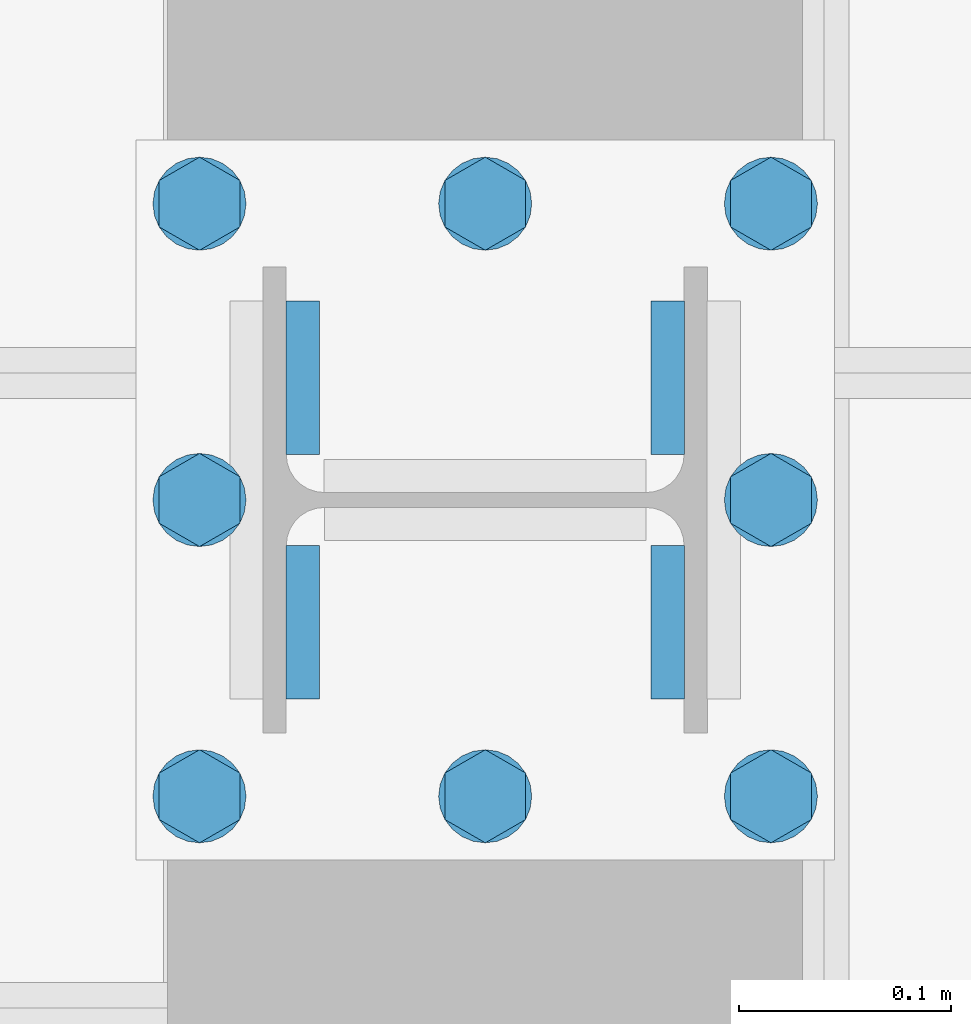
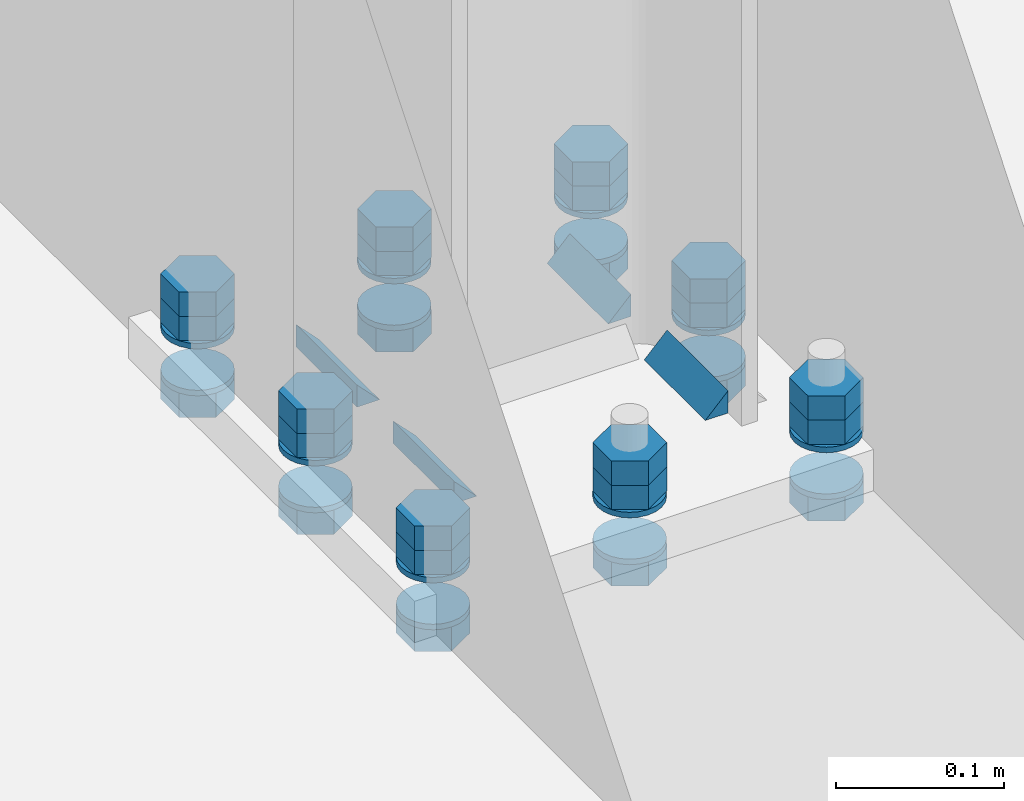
# One storey, part 18 of 29: 40 mechanical fasteners, 4 fasteners.
"""IFC4 building model written with IfcOpenShell, lengths in metres."""

from ifc_helpers import new_model, si_unit, frame, origin_with_axes, place, context, project, spatial, polyline, outline, extrude, type_object, element, save


model = new_model("IFC4")

# Units and contexts
model_context = context("Model", 3, precision=1e-05, world=origin_with_axes())
ifc_project = project(units=[si_unit("LENGTHUNIT", "METRE"), si_unit("AREAUNIT", "SQUARE_METRE"), si_unit("VOLUMEUNIT", "CUBIC_METRE"), si_unit("MASSUNIT", "GRAM", prefix="KILO"), si_unit("TIMEUNIT", "SECOND"), si_unit("PLANEANGLEUNIT", "RADIAN"), si_unit("SOLIDANGLEUNIT", "STERADIAN"), si_unit("THERMODYNAMICTEMPERATUREUNIT", "DEGREE_CELSIUS")], contexts=[model_context])

# Site, building, storey
placement_1 = place(None, origin_with_axes())
site = spatial("IfcSite", under=ifc_project, at=placement_1, Name="Italia", CompositionType="ELEMENT")
building = spatial("IfcBuilding", under=site, at=placement_1, Name="Capannone", CompositionType="ELEMENT")
storey = spatial("IfcBuildingStorey", under=building, at=placement_1, Name="Storey 0", CompositionType="ELEMENT", Elevation=0.0)

# Fasteners
fastener_type_1 = type_object("IfcFastenerType", Name="Collegamenti 0001_0101 0002_0102 0003_0103 0004_0104 0005_0105 0006_0106 0007_0107 0008_0108 0009_0109 0010_0110 0011_0111 0012_0112", PredefinedType="WELD")
placement_2 = place(placement_1, origin_with_axes())
fastener_1_placement = place(placement_2, origin_with_axes())
element("IfcFastener", 1, at=fastener_1_placement, inside=storey, type_object=fastener_type_1, Name="Collegamenti 0001_0101 0002_0102 0003_0103 0004_0104 0005_0105 0006_0106 0007_0107 0008_0108 0009_0109 0010_0110 0011_0111 0012_0112", context=model_context, shape_type="SweptSolid", body=[
    extrude(outline(polyline([(0.0, 0.0), (0.0156889, 0.0161734), (0.0156889, 0.0), (0.0, 0.0)])), frame((13.9216, 6.02145, 0.02995), z_axis=(0.0, 1.0, 0.0), x_axis=(-1.0, 0.0, 0.0)), (0.0, 0.0, 1.0), 0.0725999),
])
fastener_type_2 = type_object("IfcFastenerType", Name="Collegamenti 0001_0101 0002_0102 0003_0103 0004_0104 0005_0105 0006_0106 0007_0107 0008_0108 0009_0109 0010_0110 0011_0111 0012_0112", PredefinedType="WELD")
fastener_2_placement = place(placement_2, origin_with_axes())
element("IfcFastener", 2, at=fastener_2_placement, inside=storey, type_object=fastener_type_2, Name="Collegamenti 0001_0101 0002_0102 0003_0103 0004_0104 0005_0105 0006_0106 0007_0107 0008_0108 0009_0109 0010_0110 0011_0111 0012_0112", context=model_context, shape_type="SweptSolid", body=[
    extrude(outline(polyline([(0.0, 0.0), (0.0156889, 0.0161734), (0.0156889, 0.0), (0.0, 0.0)])), frame((14.0784, 6.09405, 0.02995), z_axis=(0.0, -1.0, 0.0), x_axis=(1.0, 0.0, 0.0)), (0.0, 0.0, 1.0), 0.0725999),
])
fastener_type_3 = type_object("IfcFastenerType", Name="Collegamenti 0001_0101 0002_0102 0003_0103 0004_0104 0005_0105 0006_0106 0007_0107 0008_0108 0009_0109 0010_0110 0011_0111 0012_0112", PredefinedType="WELD")
fastener_3_placement = place(placement_2, origin_with_axes())
element("IfcFastener", 3, at=fastener_3_placement, inside=storey, type_object=fastener_type_3, Name="Collegamenti 0001_0101 0002_0102 0003_0103 0004_0104 0005_0105 0006_0106 0007_0107 0008_0108 0009_0109 0010_0110 0011_0111 0012_0112", context=model_context, shape_type="SweptSolid", body=[
    extrude(outline(polyline([(0.0, 0.0), (0.0156889, 0.0161734), (0.0156889, 0.0), (0.0, 0.0)])), frame((14.0784, 5.97855, 0.02995), z_axis=(0.0, -1.0, 0.0), x_axis=(1.0, 0.0, 0.0)), (0.0, 0.0, 1.0), 0.0725999),
])
fastener_type_4 = type_object("IfcFastenerType", Name="Collegamenti 0001_0101 0002_0102 0003_0103 0004_0104 0005_0105 0006_0106 0007_0107 0008_0108 0009_0109 0010_0110 0011_0111 0012_0112", PredefinedType="WELD")
fastener_4_placement = place(placement_2, origin_with_axes())
element("IfcFastener", 4, at=fastener_4_placement, inside=storey, type_object=fastener_type_4, Name="Collegamenti 0001_0101 0002_0102 0003_0103 0004_0104 0005_0105 0006_0106 0007_0107 0008_0108 0009_0109 0010_0110 0011_0111 0012_0112", context=model_context, shape_type="SweptSolid", body=[
    extrude(outline(polyline([(0.0, 0.0), (0.0156889, 0.0161734), (0.0156889, 0.0), (0.0, 0.0)])), frame((13.9216, 5.90595, 0.02995), z_axis=(0.0, 1.0, 0.0), x_axis=(-1.0, 0.0, 0.0)), (0.0, 0.0, 1.0), 0.0725999),
])

# Mechanical fasteners
mechanical_fastener_type_1 = type_object("IfcMechanicalFastenerType", Name="Collegamenti 0001_0101 0002_0102 0003_0103 0004_0104 0005_0105 0006_0106 0007_0107 0008_0108 0009_0109 0010_0110 0011_0111 0012_0112", PredefinedType="BOLT")
mechanical_fastener_1_placement = place(placement_2, origin_with_axes())
element("IfcMechanicalFastener", 5, at=mechanical_fastener_1_placement, inside=storey, type_object=mechanical_fastener_type_1, Name="Collegamenti 0001_0101 0002_0102 0003_0103 0004_0104 0005_0105 0006_0106 0007_0107 0008_0108 0009_0109 0010_0110 0011_0111 0012_0112", NominalDiameter=0.0219998, context=model_context, shape_type="SweptSolid", body=[
    extrude(outline(polyline([(0.0, 0.0), (-0.0219998, 0.0), (-0.033, 0.0190525), (-0.0219998, 0.038105), (0.0, 0.038105), (0.0110002, 0.0190525), (0.0, 0.0)])), frame((14.1541, 5.871, 0.034), z_axis=(0.0, 0.0, 1.0), x_axis=(0.0, 1.0, 0.0)), (0.0, 0.0, 1.0), 0.0176),
])
mechanical_fastener_type_2 = type_object("IfcMechanicalFastenerType", Name="Collegamenti 0001_0101 0002_0102 0003_0103 0004_0104 0005_0105 0006_0106 0007_0107 0008_0108 0009_0109 0010_0110 0011_0111 0012_0112", PredefinedType="BOLT")
mechanical_fastener_2_placement = place(placement_2, origin_with_axes())
element("IfcMechanicalFastener", 6, at=mechanical_fastener_2_placement, inside=storey, type_object=mechanical_fastener_type_2, Name="Collegamenti 0001_0101 0002_0102 0003_0103 0004_0104 0005_0105 0006_0106 0007_0107 0008_0108 0009_0109 0010_0110 0011_0111 0012_0112", NominalDiameter=0.0219998, context=model_context, shape_type="SweptSolid", body=[
    extrude(outline(polyline([(0.0, 0.0), (-0.0219998, 0.0), (-0.033, 0.0190525), (-0.0219998, 0.038105), (0.0, 0.038105), (0.0110002, 0.0190525), (0.0, 0.0)])), frame((14.1541, 5.871, 0.0516), z_axis=(0.0, 0.0, 1.0), x_axis=(0.0, 1.0, 0.0)), (0.0, 0.0, 1.0), 0.0176),
])
mechanical_fastener_type_3 = type_object("IfcMechanicalFastenerType", Name="Collegamenti 0001_0101 0002_0102 0003_0103 0004_0104 0005_0105 0006_0106 0007_0107 0008_0108 0009_0109 0010_0110 0011_0111 0012_0112", PredefinedType="BOLT")
mechanical_fastener_3_placement = place(placement_2, origin_with_axes())
element("IfcMechanicalFastener", 7, at=mechanical_fastener_3_placement, inside=storey, type_object=mechanical_fastener_type_3, Name="Collegamenti 0001_0101 0002_0102 0003_0103 0004_0104 0005_0105 0006_0106 0007_0107 0008_0108 0009_0109 0010_0110 0011_0111 0012_0112", NominalDiameter=0.0219998, context=model_context, shape_type="SweptSolid", body=[
    extrude(outline(polyline([(0.0, 0.0), (-0.0219998, 0.0), (-0.033, 0.0190525), (-0.0219998, 0.038105), (0.0, 0.038105), (0.0110002, 0.0190525), (0.0, 0.0)])), frame((14.1541, 5.871, -0.0216), z_axis=(0.0, 0.0, 1.0), x_axis=(0.0, 1.0, 0.0)), (0.0, 0.0, 1.0), 0.0176),
])
mechanical_fastener_type_4 = type_object("IfcMechanicalFastenerType", Name="Collegamenti 0001_0101 0002_0102 0003_0103 0004_0104 0005_0105 0006_0106 0007_0107 0008_0108 0009_0109 0010_0110 0011_0111 0012_0112", PredefinedType="BOLT")
mechanical_fastener_4_placement = place(placement_2, origin_with_axes())
element("IfcMechanicalFastener", 8, at=mechanical_fastener_4_placement, inside=storey, type_object=mechanical_fastener_type_4, Name="Collegamenti 0001_0101 0002_0102 0003_0103 0004_0104 0005_0105 0006_0106 0007_0107 0008_0108 0009_0109 0010_0110 0011_0111 0012_0112", NominalDiameter=0.044, context=model_context, shape_type="SweptSolid", body=[
    extrude(outline(polyline([(0.0, 0.0), (-0.000749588, -0.00569439), (-0.00294733, -0.0109997), (-0.0064435, -0.0155563), (-0.0109997, -0.0190525), (-0.0163059, -0.0212507), (-0.0219998, -0.0220003), (-0.0276937, -0.0212507), (-0.033, -0.0190525), (-0.0375562, -0.0155563), (-0.0410523, -0.0109997), (-0.0432501, -0.00569439), (-0.0439997, 0.0), (-0.0432501, 0.00569439), (-0.0410523, 0.0109997), (-0.0375562, 0.0155563), (-0.033, 0.0190525), (-0.0276937, 0.0212507), (-0.0219998, 0.0220003), (-0.0163059, 0.0212507), (-0.0109997, 0.0190525), (-0.0064435, 0.0155563), (-0.00294733, 0.0109997), (-0.000749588, 0.00569439), (0.0, 0.0)])), frame((14.135, 5.882, 0.03), z_axis=(0.0, 0.0, 1.0), x_axis=(0.0, 1.0, 0.0)), (0.0, 0.0, 1.0), 0.004),
])
mechanical_fastener_type_5 = type_object("IfcMechanicalFastenerType", Name="Collegamenti 0001_0101 0002_0102 0003_0103 0004_0104 0005_0105 0006_0106 0007_0107 0008_0108 0009_0109 0010_0110 0011_0111 0012_0112", PredefinedType="BOLT")
mechanical_fastener_5_placement = place(placement_2, origin_with_axes())
element("IfcMechanicalFastener", 9, at=mechanical_fastener_5_placement, inside=storey, type_object=mechanical_fastener_type_5, Name="Collegamenti 0001_0101 0002_0102 0003_0103 0004_0104 0005_0105 0006_0106 0007_0107 0008_0108 0009_0109 0010_0110 0011_0111 0012_0112", NominalDiameter=0.044, context=model_context, shape_type="SweptSolid", body=[
    extrude(outline(polyline([(0.0, 0.0), (-0.000749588, -0.00569439), (-0.00294733, -0.0109997), (-0.0064435, -0.0155563), (-0.0109997, -0.0190525), (-0.0163059, -0.0212507), (-0.0219998, -0.0220003), (-0.0276937, -0.0212507), (-0.033, -0.0190525), (-0.0375562, -0.0155563), (-0.0410523, -0.0109997), (-0.0432501, -0.00569439), (-0.0439997, 0.0), (-0.0432501, 0.00569439), (-0.0410523, 0.0109997), (-0.0375562, 0.0155563), (-0.033, 0.0190525), (-0.0276937, 0.0212507), (-0.0219998, 0.0220003), (-0.0163059, 0.0212507), (-0.0109997, 0.0190525), (-0.0064435, 0.0155563), (-0.00294733, 0.0109997), (-0.000749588, 0.00569439), (0.0, 0.0)])), frame((14.135, 5.882, -0.004), z_axis=(0.0, 0.0, 1.0), x_axis=(0.0, 1.0, 0.0)), (0.0, 0.0, 1.0), 0.004),
])
mechanical_fastener_type_6 = type_object("IfcMechanicalFastenerType", Name="Collegamenti 0001_0101 0002_0102 0003_0103 0004_0104 0005_0105 0006_0106 0007_0107 0008_0108 0009_0109 0010_0110 0011_0111 0012_0112", PredefinedType="BOLT")
mechanical_fastener_6_placement = place(placement_2, origin_with_axes())
element("IfcMechanicalFastener", 10, at=mechanical_fastener_6_placement, inside=storey, type_object=mechanical_fastener_type_6, Name="Collegamenti 0001_0101 0002_0102 0003_0103 0004_0104 0005_0105 0006_0106 0007_0107 0008_0108 0009_0109 0010_0110 0011_0111 0012_0112", NominalDiameter=0.0219998, context=model_context, shape_type="SweptSolid", body=[
    extrude(outline(polyline([(0.0, 0.0), (-0.0220003, 0.0), (-0.033, 0.0190525), (-0.0220003, 0.038105), (0.0, 0.038105), (0.0109997, 0.0190525), (0.0, 0.0)])), frame((14.1541, 6.011, 0.034), z_axis=(0.0, 0.0, 1.0), x_axis=(0.0, 1.0, 0.0)), (0.0, 0.0, 1.0), 0.0176),
])
mechanical_fastener_type_7 = type_object("IfcMechanicalFastenerType", Name="Collegamenti 0001_0101 0002_0102 0003_0103 0004_0104 0005_0105 0006_0106 0007_0107 0008_0108 0009_0109 0010_0110 0011_0111 0012_0112", PredefinedType="BOLT")
mechanical_fastener_7_placement = place(placement_2, origin_with_axes())
element("IfcMechanicalFastener", 11, at=mechanical_fastener_7_placement, inside=storey, type_object=mechanical_fastener_type_7, Name="Collegamenti 0001_0101 0002_0102 0003_0103 0004_0104 0005_0105 0006_0106 0007_0107 0008_0108 0009_0109 0010_0110 0011_0111 0012_0112", NominalDiameter=0.0219998, context=model_context, shape_type="SweptSolid", body=[
    extrude(outline(polyline([(0.0, 0.0), (-0.0220003, 0.0), (-0.033, 0.0190525), (-0.0220003, 0.038105), (0.0, 0.038105), (0.0109997, 0.0190525), (0.0, 0.0)])), frame((14.1541, 6.011, 0.0516), z_axis=(0.0, 0.0, 1.0), x_axis=(0.0, 1.0, 0.0)), (0.0, 0.0, 1.0), 0.0176),
])
mechanical_fastener_type_8 = type_object("IfcMechanicalFastenerType", Name="Collegamenti 0001_0101 0002_0102 0003_0103 0004_0104 0005_0105 0006_0106 0007_0107 0008_0108 0009_0109 0010_0110 0011_0111 0012_0112", PredefinedType="BOLT")
mechanical_fastener_8_placement = place(placement_2, origin_with_axes())
element("IfcMechanicalFastener", 12, at=mechanical_fastener_8_placement, inside=storey, type_object=mechanical_fastener_type_8, Name="Collegamenti 0001_0101 0002_0102 0003_0103 0004_0104 0005_0105 0006_0106 0007_0107 0008_0108 0009_0109 0010_0110 0011_0111 0012_0112", NominalDiameter=0.0219998, context=model_context, shape_type="SweptSolid", body=[
    extrude(outline(polyline([(0.0, 0.0), (-0.0220003, 0.0), (-0.033, 0.0190525), (-0.0220003, 0.038105), (0.0, 0.038105), (0.0109997, 0.0190525), (0.0, 0.0)])), frame((14.1541, 6.011, -0.0216), z_axis=(0.0, 0.0, 1.0), x_axis=(0.0, 1.0, 0.0)), (0.0, 0.0, 1.0), 0.0176),
])
mechanical_fastener_type_9 = type_object("IfcMechanicalFastenerType", Name="Collegamenti 0001_0101 0002_0102 0003_0103 0004_0104 0005_0105 0006_0106 0007_0107 0008_0108 0009_0109 0010_0110 0011_0111 0012_0112", PredefinedType="BOLT")
mechanical_fastener_9_placement = place(placement_2, origin_with_axes())
element("IfcMechanicalFastener", 13, at=mechanical_fastener_9_placement, inside=storey, type_object=mechanical_fastener_type_9, Name="Collegamenti 0001_0101 0002_0102 0003_0103 0004_0104 0005_0105 0006_0106 0007_0107 0008_0108 0009_0109 0010_0110 0011_0111 0012_0112", NominalDiameter=0.044, context=model_context, shape_type="SweptSolid", body=[
    extrude(outline(polyline([(0.0, 0.0), (-0.000749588, -0.00569439), (-0.00294733, -0.0109997), (-0.0064435, -0.0155563), (-0.0109997, -0.0190525), (-0.0163059, -0.0212507), (-0.0219998, -0.0220003), (-0.0276937, -0.0212507), (-0.033, -0.0190525), (-0.0375562, -0.0155563), (-0.0410523, -0.0109997), (-0.0432501, -0.00569439), (-0.0439997, 0.0), (-0.0432501, 0.00569439), (-0.0410523, 0.0109997), (-0.0375562, 0.0155563), (-0.033, 0.0190525), (-0.0276937, 0.0212507), (-0.0219998, 0.0220003), (-0.0163059, 0.0212507), (-0.0109997, 0.0190525), (-0.0064435, 0.0155563), (-0.00294733, 0.0109997), (-0.000749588, 0.00569439), (0.0, 0.0)])), frame((14.135, 6.022, 0.03), z_axis=(0.0, 0.0, 1.0), x_axis=(0.0, 1.0, 0.0)), (0.0, 0.0, 1.0), 0.004),
])
mechanical_fastener_type_10 = type_object("IfcMechanicalFastenerType", Name="Collegamenti 0001_0101 0002_0102 0003_0103 0004_0104 0005_0105 0006_0106 0007_0107 0008_0108 0009_0109 0010_0110 0011_0111 0012_0112", PredefinedType="BOLT")
mechanical_fastener_10_placement = place(placement_2, origin_with_axes())
element("IfcMechanicalFastener", 14, at=mechanical_fastener_10_placement, inside=storey, type_object=mechanical_fastener_type_10, Name="Collegamenti 0001_0101 0002_0102 0003_0103 0004_0104 0005_0105 0006_0106 0007_0107 0008_0108 0009_0109 0010_0110 0011_0111 0012_0112", NominalDiameter=0.044, context=model_context, shape_type="SweptSolid", body=[
    extrude(outline(polyline([(0.0, 0.0), (-0.000749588, -0.00569439), (-0.00294733, -0.0109997), (-0.0064435, -0.0155563), (-0.0109997, -0.0190525), (-0.0163059, -0.0212507), (-0.0219998, -0.0220003), (-0.0276937, -0.0212507), (-0.033, -0.0190525), (-0.0375562, -0.0155563), (-0.0410523, -0.0109997), (-0.0432501, -0.00569439), (-0.0439997, 0.0), (-0.0432501, 0.00569439), (-0.0410523, 0.0109997), (-0.0375562, 0.0155563), (-0.033, 0.0190525), (-0.0276937, 0.0212507), (-0.0219998, 0.0220003), (-0.0163059, 0.0212507), (-0.0109997, 0.0190525), (-0.0064435, 0.0155563), (-0.00294733, 0.0109997), (-0.000749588, 0.00569439), (0.0, 0.0)])), frame((14.135, 6.022, -0.004), z_axis=(0.0, 0.0, 1.0), x_axis=(0.0, 1.0, 0.0)), (0.0, 0.0, 1.0), 0.004),
])
mechanical_fastener_type_11 = type_object("IfcMechanicalFastenerType", Name="Collegamenti 0001_0101 0002_0102 0003_0103 0004_0104 0005_0105 0006_0106 0007_0107 0008_0108 0009_0109 0010_0110 0011_0111 0012_0112", PredefinedType="BOLT")
mechanical_fastener_11_placement = place(placement_2, origin_with_axes())
element("IfcMechanicalFastener", 15, at=mechanical_fastener_11_placement, inside=storey, type_object=mechanical_fastener_type_11, Name="Collegamenti 0001_0101 0002_0102 0003_0103 0004_0104 0005_0105 0006_0106 0007_0107 0008_0108 0009_0109 0010_0110 0011_0111 0012_0112", NominalDiameter=0.0219998, context=model_context, shape_type="SweptSolid", body=[
    extrude(outline(polyline([(0.0, 0.0), (-0.0219998, 0.0), (-0.033, 0.0190525), (-0.0219998, 0.038105), (0.0, 0.038105), (0.0110002, 0.0190525), (0.0, 0.0)])), frame((14.1541, 6.151, 0.034), z_axis=(0.0, 0.0, 1.0), x_axis=(0.0, 1.0, 0.0)), (0.0, 0.0, 1.0), 0.0176),
])
mechanical_fastener_type_12 = type_object("IfcMechanicalFastenerType", Name="Collegamenti 0001_0101 0002_0102 0003_0103 0004_0104 0005_0105 0006_0106 0007_0107 0008_0108 0009_0109 0010_0110 0011_0111 0012_0112", PredefinedType="BOLT")
mechanical_fastener_12_placement = place(placement_2, origin_with_axes())
element("IfcMechanicalFastener", 16, at=mechanical_fastener_12_placement, inside=storey, type_object=mechanical_fastener_type_12, Name="Collegamenti 0001_0101 0002_0102 0003_0103 0004_0104 0005_0105 0006_0106 0007_0107 0008_0108 0009_0109 0010_0110 0011_0111 0012_0112", NominalDiameter=0.0219998, context=model_context, shape_type="SweptSolid", body=[
    extrude(outline(polyline([(0.0, 0.0), (-0.0219998, 0.0), (-0.033, 0.0190525), (-0.0219998, 0.038105), (0.0, 0.038105), (0.0110002, 0.0190525), (0.0, 0.0)])), frame((14.1541, 6.151, 0.0516), z_axis=(0.0, 0.0, 1.0), x_axis=(0.0, 1.0, 0.0)), (0.0, 0.0, 1.0), 0.0176),
])
mechanical_fastener_type_13 = type_object("IfcMechanicalFastenerType", Name="Collegamenti 0001_0101 0002_0102 0003_0103 0004_0104 0005_0105 0006_0106 0007_0107 0008_0108 0009_0109 0010_0110 0011_0111 0012_0112", PredefinedType="BOLT")
mechanical_fastener_13_placement = place(placement_2, origin_with_axes())
element("IfcMechanicalFastener", 17, at=mechanical_fastener_13_placement, inside=storey, type_object=mechanical_fastener_type_13, Name="Collegamenti 0001_0101 0002_0102 0003_0103 0004_0104 0005_0105 0006_0106 0007_0107 0008_0108 0009_0109 0010_0110 0011_0111 0012_0112", NominalDiameter=0.0219998, context=model_context, shape_type="SweptSolid", body=[
    extrude(outline(polyline([(0.0, 0.0), (-0.0219998, 0.0), (-0.033, 0.0190525), (-0.0219998, 0.038105), (0.0, 0.038105), (0.0110002, 0.0190525), (0.0, 0.0)])), frame((14.1541, 6.151, -0.0216), z_axis=(0.0, 0.0, 1.0), x_axis=(0.0, 1.0, 0.0)), (0.0, 0.0, 1.0), 0.0176),
])
mechanical_fastener_type_14 = type_object("IfcMechanicalFastenerType", Name="Collegamenti 0001_0101 0002_0102 0003_0103 0004_0104 0005_0105 0006_0106 0007_0107 0008_0108 0009_0109 0010_0110 0011_0111 0012_0112", PredefinedType="BOLT")
mechanical_fastener_14_placement = place(placement_2, origin_with_axes())
element("IfcMechanicalFastener", 18, at=mechanical_fastener_14_placement, inside=storey, type_object=mechanical_fastener_type_14, Name="Collegamenti 0001_0101 0002_0102 0003_0103 0004_0104 0005_0105 0006_0106 0007_0107 0008_0108 0009_0109 0010_0110 0011_0111 0012_0112", NominalDiameter=0.044, context=model_context, shape_type="SweptSolid", body=[
    extrude(outline(polyline([(0.0, 0.0), (-0.000749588, -0.00569439), (-0.00294733, -0.0109997), (-0.0064435, -0.0155563), (-0.0109997, -0.0190525), (-0.0163059, -0.0212507), (-0.0219998, -0.0220003), (-0.0276937, -0.0212507), (-0.033, -0.0190525), (-0.0375562, -0.0155563), (-0.0410523, -0.0109997), (-0.0432501, -0.00569439), (-0.0439997, 0.0), (-0.0432501, 0.00569439), (-0.0410523, 0.0109997), (-0.0375562, 0.0155563), (-0.033, 0.0190525), (-0.0276937, 0.0212507), (-0.0219998, 0.0220003), (-0.0163059, 0.0212507), (-0.0109997, 0.0190525), (-0.0064435, 0.0155563), (-0.00294733, 0.0109997), (-0.000749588, 0.00569439), (0.0, 0.0)])), frame((14.135, 6.162, 0.03), z_axis=(0.0, 0.0, 1.0), x_axis=(0.0, 1.0, 0.0)), (0.0, 0.0, 1.0), 0.004),
])
mechanical_fastener_type_15 = type_object("IfcMechanicalFastenerType", Name="Collegamenti 0001_0101 0002_0102 0003_0103 0004_0104 0005_0105 0006_0106 0007_0107 0008_0108 0009_0109 0010_0110 0011_0111 0012_0112", PredefinedType="BOLT")
mechanical_fastener_15_placement = place(placement_2, origin_with_axes())
element("IfcMechanicalFastener", 19, at=mechanical_fastener_15_placement, inside=storey, type_object=mechanical_fastener_type_15, Name="Collegamenti 0001_0101 0002_0102 0003_0103 0004_0104 0005_0105 0006_0106 0007_0107 0008_0108 0009_0109 0010_0110 0011_0111 0012_0112", NominalDiameter=0.044, context=model_context, shape_type="SweptSolid", body=[
    extrude(outline(polyline([(0.0, 0.0), (-0.000749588, -0.00569439), (-0.00294733, -0.0109997), (-0.0064435, -0.0155563), (-0.0109997, -0.0190525), (-0.0163059, -0.0212507), (-0.0219998, -0.0220003), (-0.0276937, -0.0212507), (-0.033, -0.0190525), (-0.0375562, -0.0155563), (-0.0410523, -0.0109997), (-0.0432501, -0.00569439), (-0.0439997, 0.0), (-0.0432501, 0.00569439), (-0.0410523, 0.0109997), (-0.0375562, 0.0155563), (-0.033, 0.0190525), (-0.0276937, 0.0212507), (-0.0219998, 0.0220003), (-0.0163059, 0.0212507), (-0.0109997, 0.0190525), (-0.0064435, 0.0155563), (-0.00294733, 0.0109997), (-0.000749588, 0.00569439), (0.0, 0.0)])), frame((14.135, 6.162, -0.004), z_axis=(0.0, 0.0, 1.0), x_axis=(0.0, 1.0, 0.0)), (0.0, 0.0, 1.0), 0.004),
])
mechanical_fastener_type_16 = type_object("IfcMechanicalFastenerType", Name="Collegamenti 0001_0101 0002_0102 0003_0103 0004_0104 0005_0105 0006_0106 0007_0107 0008_0108 0009_0109 0010_0110 0011_0111 0012_0112", PredefinedType="BOLT")
mechanical_fastener_16_placement = place(placement_2, origin_with_axes())
element("IfcMechanicalFastener", 20, at=mechanical_fastener_16_placement, inside=storey, type_object=mechanical_fastener_type_16, Name="Collegamenti 0001_0101 0002_0102 0003_0103 0004_0104 0005_0105 0006_0106 0007_0107 0008_0108 0009_0109 0010_0110 0011_0111 0012_0112", NominalDiameter=0.0219998, context=model_context, shape_type="SweptSolid", body=[
    extrude(outline(polyline([(0.0, 0.0), (-0.0219998, 0.0), (-0.033, 0.0190525), (-0.0219998, 0.038105), (0.0, 0.038105), (0.0110002, 0.0190525), (0.0, 0.0)])), frame((14.0191, 5.871, 0.034), z_axis=(0.0, 0.0, 1.0), x_axis=(0.0, 1.0, 0.0)), (0.0, 0.0, 1.0), 0.0176),
])
mechanical_fastener_type_17 = type_object("IfcMechanicalFastenerType", Name="Collegamenti 0001_0101 0002_0102 0003_0103 0004_0104 0005_0105 0006_0106 0007_0107 0008_0108 0009_0109 0010_0110 0011_0111 0012_0112", PredefinedType="BOLT")
mechanical_fastener_17_placement = place(placement_2, origin_with_axes())
element("IfcMechanicalFastener", 21, at=mechanical_fastener_17_placement, inside=storey, type_object=mechanical_fastener_type_17, Name="Collegamenti 0001_0101 0002_0102 0003_0103 0004_0104 0005_0105 0006_0106 0007_0107 0008_0108 0009_0109 0010_0110 0011_0111 0012_0112", NominalDiameter=0.0219998, context=model_context, shape_type="SweptSolid", body=[
    extrude(outline(polyline([(0.0, 0.0), (-0.0219998, 0.0), (-0.033, 0.0190525), (-0.0219998, 0.038105), (0.0, 0.038105), (0.0110002, 0.0190525), (0.0, 0.0)])), frame((14.0191, 5.871, 0.0516), z_axis=(0.0, 0.0, 1.0), x_axis=(0.0, 1.0, 0.0)), (0.0, 0.0, 1.0), 0.0176),
])
mechanical_fastener_type_18 = type_object("IfcMechanicalFastenerType", Name="Collegamenti 0001_0101 0002_0102 0003_0103 0004_0104 0005_0105 0006_0106 0007_0107 0008_0108 0009_0109 0010_0110 0011_0111 0012_0112", PredefinedType="BOLT")
mechanical_fastener_18_placement = place(placement_2, origin_with_axes())
element("IfcMechanicalFastener", 22, at=mechanical_fastener_18_placement, inside=storey, type_object=mechanical_fastener_type_18, Name="Collegamenti 0001_0101 0002_0102 0003_0103 0004_0104 0005_0105 0006_0106 0007_0107 0008_0108 0009_0109 0010_0110 0011_0111 0012_0112", NominalDiameter=0.0219998, context=model_context, shape_type="SweptSolid", body=[
    extrude(outline(polyline([(0.0, 0.0), (-0.0219998, 0.0), (-0.033, 0.0190525), (-0.0219998, 0.038105), (0.0, 0.038105), (0.0110002, 0.0190525), (0.0, 0.0)])), frame((14.0191, 5.871, -0.0216), z_axis=(0.0, 0.0, 1.0), x_axis=(0.0, 1.0, 0.0)), (0.0, 0.0, 1.0), 0.0176),
])
mechanical_fastener_type_19 = type_object("IfcMechanicalFastenerType", Name="Collegamenti 0001_0101 0002_0102 0003_0103 0004_0104 0005_0105 0006_0106 0007_0107 0008_0108 0009_0109 0010_0110 0011_0111 0012_0112", PredefinedType="BOLT")
mechanical_fastener_19_placement = place(placement_2, origin_with_axes())
element("IfcMechanicalFastener", 23, at=mechanical_fastener_19_placement, inside=storey, type_object=mechanical_fastener_type_19, Name="Collegamenti 0001_0101 0002_0102 0003_0103 0004_0104 0005_0105 0006_0106 0007_0107 0008_0108 0009_0109 0010_0110 0011_0111 0012_0112", NominalDiameter=0.044, context=model_context, shape_type="SweptSolid", body=[
    extrude(outline(polyline([(0.0, 0.0), (-0.000749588, -0.00569439), (-0.00294733, -0.0109997), (-0.0064435, -0.0155563), (-0.0109997, -0.0190525), (-0.0163059, -0.0212507), (-0.0219998, -0.0220003), (-0.0276937, -0.0212507), (-0.033, -0.0190525), (-0.0375562, -0.0155563), (-0.0410523, -0.0109997), (-0.0432501, -0.00569439), (-0.0439997, 0.0), (-0.0432501, 0.00569439), (-0.0410523, 0.0109997), (-0.0375562, 0.0155563), (-0.033, 0.0190525), (-0.0276937, 0.0212507), (-0.0219998, 0.0220003), (-0.0163059, 0.0212507), (-0.0109997, 0.0190525), (-0.0064435, 0.0155563), (-0.00294733, 0.0109997), (-0.000749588, 0.00569439), (0.0, 0.0)])), frame((14.0, 5.882, 0.03), z_axis=(0.0, 0.0, 1.0), x_axis=(0.0, 1.0, 0.0)), (0.0, 0.0, 1.0), 0.004),
])
mechanical_fastener_type_20 = type_object("IfcMechanicalFastenerType", Name="Collegamenti 0001_0101 0002_0102 0003_0103 0004_0104 0005_0105 0006_0106 0007_0107 0008_0108 0009_0109 0010_0110 0011_0111 0012_0112", PredefinedType="BOLT")
mechanical_fastener_20_placement = place(placement_2, origin_with_axes())
element("IfcMechanicalFastener", 24, at=mechanical_fastener_20_placement, inside=storey, type_object=mechanical_fastener_type_20, Name="Collegamenti 0001_0101 0002_0102 0003_0103 0004_0104 0005_0105 0006_0106 0007_0107 0008_0108 0009_0109 0010_0110 0011_0111 0012_0112", NominalDiameter=0.044, context=model_context, shape_type="SweptSolid", body=[
    extrude(outline(polyline([(0.0, 0.0), (-0.000749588, -0.00569439), (-0.00294733, -0.0109997), (-0.0064435, -0.0155563), (-0.0109997, -0.0190525), (-0.0163059, -0.0212507), (-0.0219998, -0.0220003), (-0.0276937, -0.0212507), (-0.033, -0.0190525), (-0.0375562, -0.0155563), (-0.0410523, -0.0109997), (-0.0432501, -0.00569439), (-0.0439997, 0.0), (-0.0432501, 0.00569439), (-0.0410523, 0.0109997), (-0.0375562, 0.0155563), (-0.033, 0.0190525), (-0.0276937, 0.0212507), (-0.0219998, 0.0220003), (-0.0163059, 0.0212507), (-0.0109997, 0.0190525), (-0.0064435, 0.0155563), (-0.00294733, 0.0109997), (-0.000749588, 0.00569439), (0.0, 0.0)])), frame((14.0, 5.882, -0.004), z_axis=(0.0, 0.0, 1.0), x_axis=(0.0, 1.0, 0.0)), (0.0, 0.0, 1.0), 0.004),
])
mechanical_fastener_type_21 = type_object("IfcMechanicalFastenerType", Name="Collegamenti 0001_0101 0002_0102 0003_0103 0004_0104 0005_0105 0006_0106 0007_0107 0008_0108 0009_0109 0010_0110 0011_0111 0012_0112", PredefinedType="BOLT")
mechanical_fastener_21_placement = place(placement_2, origin_with_axes())
element("IfcMechanicalFastener", 25, at=mechanical_fastener_21_placement, inside=storey, type_object=mechanical_fastener_type_21, Name="Collegamenti 0001_0101 0002_0102 0003_0103 0004_0104 0005_0105 0006_0106 0007_0107 0008_0108 0009_0109 0010_0110 0011_0111 0012_0112", NominalDiameter=0.0219998, context=model_context, shape_type="SweptSolid", body=[
    extrude(outline(polyline([(0.0, 0.0), (-0.0219998, 0.0), (-0.033, 0.0190525), (-0.0219998, 0.038105), (0.0, 0.038105), (0.0110002, 0.0190525), (0.0, 0.0)])), frame((14.0191, 6.151, 0.034), z_axis=(0.0, 0.0, 1.0), x_axis=(0.0, 1.0, 0.0)), (0.0, 0.0, 1.0), 0.0176),
])
mechanical_fastener_type_22 = type_object("IfcMechanicalFastenerType", Name="Collegamenti 0001_0101 0002_0102 0003_0103 0004_0104 0005_0105 0006_0106 0007_0107 0008_0108 0009_0109 0010_0110 0011_0111 0012_0112", PredefinedType="BOLT")
mechanical_fastener_22_placement = place(placement_2, origin_with_axes())
element("IfcMechanicalFastener", 26, at=mechanical_fastener_22_placement, inside=storey, type_object=mechanical_fastener_type_22, Name="Collegamenti 0001_0101 0002_0102 0003_0103 0004_0104 0005_0105 0006_0106 0007_0107 0008_0108 0009_0109 0010_0110 0011_0111 0012_0112", NominalDiameter=0.0219998, context=model_context, shape_type="SweptSolid", body=[
    extrude(outline(polyline([(0.0, 0.0), (-0.0219998, 0.0), (-0.033, 0.0190525), (-0.0219998, 0.038105), (0.0, 0.038105), (0.0110002, 0.0190525), (0.0, 0.0)])), frame((14.0191, 6.151, 0.0516), z_axis=(0.0, 0.0, 1.0), x_axis=(0.0, 1.0, 0.0)), (0.0, 0.0, 1.0), 0.0176),
])
mechanical_fastener_type_23 = type_object("IfcMechanicalFastenerType", Name="Collegamenti 0001_0101 0002_0102 0003_0103 0004_0104 0005_0105 0006_0106 0007_0107 0008_0108 0009_0109 0010_0110 0011_0111 0012_0112", PredefinedType="BOLT")
mechanical_fastener_23_placement = place(placement_2, origin_with_axes())
element("IfcMechanicalFastener", 27, at=mechanical_fastener_23_placement, inside=storey, type_object=mechanical_fastener_type_23, Name="Collegamenti 0001_0101 0002_0102 0003_0103 0004_0104 0005_0105 0006_0106 0007_0107 0008_0108 0009_0109 0010_0110 0011_0111 0012_0112", NominalDiameter=0.0219998, context=model_context, shape_type="SweptSolid", body=[
    extrude(outline(polyline([(0.0, 0.0), (-0.0219998, 0.0), (-0.033, 0.0190525), (-0.0219998, 0.038105), (0.0, 0.038105), (0.0110002, 0.0190525), (0.0, 0.0)])), frame((14.0191, 6.151, -0.0216), z_axis=(0.0, 0.0, 1.0), x_axis=(0.0, 1.0, 0.0)), (0.0, 0.0, 1.0), 0.0176),
])
mechanical_fastener_type_24 = type_object("IfcMechanicalFastenerType", Name="Collegamenti 0001_0101 0002_0102 0003_0103 0004_0104 0005_0105 0006_0106 0007_0107 0008_0108 0009_0109 0010_0110 0011_0111 0012_0112", PredefinedType="BOLT")
mechanical_fastener_24_placement = place(placement_2, origin_with_axes())
element("IfcMechanicalFastener", 28, at=mechanical_fastener_24_placement, inside=storey, type_object=mechanical_fastener_type_24, Name="Collegamenti 0001_0101 0002_0102 0003_0103 0004_0104 0005_0105 0006_0106 0007_0107 0008_0108 0009_0109 0010_0110 0011_0111 0012_0112", NominalDiameter=0.044, context=model_context, shape_type="SweptSolid", body=[
    extrude(outline(polyline([(0.0, 0.0), (-0.000749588, -0.00569439), (-0.00294733, -0.0109997), (-0.0064435, -0.0155563), (-0.0109997, -0.0190525), (-0.0163059, -0.0212507), (-0.0219998, -0.0220003), (-0.0276937, -0.0212507), (-0.033, -0.0190525), (-0.0375562, -0.0155563), (-0.0410523, -0.0109997), (-0.0432501, -0.00569439), (-0.0439997, 0.0), (-0.0432501, 0.00569439), (-0.0410523, 0.0109997), (-0.0375562, 0.0155563), (-0.033, 0.0190525), (-0.0276937, 0.0212507), (-0.0219998, 0.0220003), (-0.0163059, 0.0212507), (-0.0109997, 0.0190525), (-0.0064435, 0.0155563), (-0.00294733, 0.0109997), (-0.000749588, 0.00569439), (0.0, 0.0)])), frame((14.0, 6.162, 0.03), z_axis=(0.0, 0.0, 1.0), x_axis=(0.0, 1.0, 0.0)), (0.0, 0.0, 1.0), 0.004),
])
mechanical_fastener_type_25 = type_object("IfcMechanicalFastenerType", Name="Collegamenti 0001_0101 0002_0102 0003_0103 0004_0104 0005_0105 0006_0106 0007_0107 0008_0108 0009_0109 0010_0110 0011_0111 0012_0112", PredefinedType="BOLT")
mechanical_fastener_25_placement = place(placement_2, origin_with_axes())
element("IfcMechanicalFastener", 29, at=mechanical_fastener_25_placement, inside=storey, type_object=mechanical_fastener_type_25, Name="Collegamenti 0001_0101 0002_0102 0003_0103 0004_0104 0005_0105 0006_0106 0007_0107 0008_0108 0009_0109 0010_0110 0011_0111 0012_0112", NominalDiameter=0.044, context=model_context, shape_type="SweptSolid", body=[
    extrude(outline(polyline([(0.0, 0.0), (-0.000749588, -0.00569439), (-0.00294733, -0.0109997), (-0.0064435, -0.0155563), (-0.0109997, -0.0190525), (-0.0163059, -0.0212507), (-0.0219998, -0.0220003), (-0.0276937, -0.0212507), (-0.033, -0.0190525), (-0.0375562, -0.0155563), (-0.0410523, -0.0109997), (-0.0432501, -0.00569439), (-0.0439997, 0.0), (-0.0432501, 0.00569439), (-0.0410523, 0.0109997), (-0.0375562, 0.0155563), (-0.033, 0.0190525), (-0.0276937, 0.0212507), (-0.0219998, 0.0220003), (-0.0163059, 0.0212507), (-0.0109997, 0.0190525), (-0.0064435, 0.0155563), (-0.00294733, 0.0109997), (-0.000749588, 0.00569439), (0.0, 0.0)])), frame((14.0, 6.162, -0.004), z_axis=(0.0, 0.0, 1.0), x_axis=(0.0, 1.0, 0.0)), (0.0, 0.0, 1.0), 0.004),
])
mechanical_fastener_type_26 = type_object("IfcMechanicalFastenerType", Name="Collegamenti 0001_0101 0002_0102 0003_0103 0004_0104 0005_0105 0006_0106 0007_0107 0008_0108 0009_0109 0010_0110 0011_0111 0012_0112", PredefinedType="BOLT")
mechanical_fastener_26_placement = place(placement_2, origin_with_axes())
element("IfcMechanicalFastener", 30, at=mechanical_fastener_26_placement, inside=storey, type_object=mechanical_fastener_type_26, Name="Collegamenti 0001_0101 0002_0102 0003_0103 0004_0104 0005_0105 0006_0106 0007_0107 0008_0108 0009_0109 0010_0110 0011_0111 0012_0112", NominalDiameter=0.0219998, context=model_context, shape_type="SweptSolid", body=[
    extrude(outline(polyline([(0.0, 0.0), (-0.0219998, 0.0), (-0.033, 0.0190525), (-0.0219998, 0.038105), (0.0, 0.038105), (0.0110002, 0.0190525), (0.0, 0.0)])), frame((13.8841, 5.871, 0.034), z_axis=(0.0, 0.0, 1.0), x_axis=(0.0, 1.0, 0.0)), (0.0, 0.0, 1.0), 0.0176),
])
mechanical_fastener_type_27 = type_object("IfcMechanicalFastenerType", Name="Collegamenti 0001_0101 0002_0102 0003_0103 0004_0104 0005_0105 0006_0106 0007_0107 0008_0108 0009_0109 0010_0110 0011_0111 0012_0112", PredefinedType="BOLT")
mechanical_fastener_27_placement = place(placement_2, origin_with_axes())
element("IfcMechanicalFastener", 31, at=mechanical_fastener_27_placement, inside=storey, type_object=mechanical_fastener_type_27, Name="Collegamenti 0001_0101 0002_0102 0003_0103 0004_0104 0005_0105 0006_0106 0007_0107 0008_0108 0009_0109 0010_0110 0011_0111 0012_0112", NominalDiameter=0.0219998, context=model_context, shape_type="SweptSolid", body=[
    extrude(outline(polyline([(0.0, 0.0), (-0.0219998, 0.0), (-0.033, 0.0190525), (-0.0219998, 0.038105), (0.0, 0.038105), (0.0110002, 0.0190525), (0.0, 0.0)])), frame((13.8841, 5.871, 0.0516), z_axis=(0.0, 0.0, 1.0), x_axis=(0.0, 1.0, 0.0)), (0.0, 0.0, 1.0), 0.0176),
])
mechanical_fastener_type_28 = type_object("IfcMechanicalFastenerType", Name="Collegamenti 0001_0101 0002_0102 0003_0103 0004_0104 0005_0105 0006_0106 0007_0107 0008_0108 0009_0109 0010_0110 0011_0111 0012_0112", PredefinedType="BOLT")
mechanical_fastener_28_placement = place(placement_2, origin_with_axes())
element("IfcMechanicalFastener", 32, at=mechanical_fastener_28_placement, inside=storey, type_object=mechanical_fastener_type_28, Name="Collegamenti 0001_0101 0002_0102 0003_0103 0004_0104 0005_0105 0006_0106 0007_0107 0008_0108 0009_0109 0010_0110 0011_0111 0012_0112", NominalDiameter=0.0219998, context=model_context, shape_type="SweptSolid", body=[
    extrude(outline(polyline([(0.0, 0.0), (-0.0219998, 0.0), (-0.033, 0.0190525), (-0.0219998, 0.038105), (0.0, 0.038105), (0.0110002, 0.0190525), (0.0, 0.0)])), frame((13.8841, 5.871, -0.0216), z_axis=(0.0, 0.0, 1.0), x_axis=(0.0, 1.0, 0.0)), (0.0, 0.0, 1.0), 0.0176),
])
mechanical_fastener_type_29 = type_object("IfcMechanicalFastenerType", Name="Collegamenti 0001_0101 0002_0102 0003_0103 0004_0104 0005_0105 0006_0106 0007_0107 0008_0108 0009_0109 0010_0110 0011_0111 0012_0112", PredefinedType="BOLT")
mechanical_fastener_29_placement = place(placement_2, origin_with_axes())
element("IfcMechanicalFastener", 33, at=mechanical_fastener_29_placement, inside=storey, type_object=mechanical_fastener_type_29, Name="Collegamenti 0001_0101 0002_0102 0003_0103 0004_0104 0005_0105 0006_0106 0007_0107 0008_0108 0009_0109 0010_0110 0011_0111 0012_0112", NominalDiameter=0.044, context=model_context, shape_type="SweptSolid", body=[
    extrude(outline(polyline([(0.0, 0.0), (-0.000749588, -0.00569439), (-0.00294733, -0.0109997), (-0.0064435, -0.0155563), (-0.0109997, -0.0190525), (-0.0163059, -0.0212507), (-0.0219998, -0.0220003), (-0.0276937, -0.0212507), (-0.033, -0.0190525), (-0.0375562, -0.0155563), (-0.0410523, -0.0109997), (-0.0432501, -0.00569439), (-0.0439997, 0.0), (-0.0432501, 0.00569439), (-0.0410523, 0.0109997), (-0.0375562, 0.0155563), (-0.033, 0.0190525), (-0.0276937, 0.0212507), (-0.0219998, 0.0220003), (-0.0163059, 0.0212507), (-0.0109997, 0.0190525), (-0.0064435, 0.0155563), (-0.00294733, 0.0109997), (-0.000749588, 0.00569439), (0.0, 0.0)])), frame((13.865, 5.882, 0.03), z_axis=(0.0, 0.0, 1.0), x_axis=(0.0, 1.0, 0.0)), (0.0, 0.0, 1.0), 0.004),
])
mechanical_fastener_type_30 = type_object("IfcMechanicalFastenerType", Name="Collegamenti 0001_0101 0002_0102 0003_0103 0004_0104 0005_0105 0006_0106 0007_0107 0008_0108 0009_0109 0010_0110 0011_0111 0012_0112", PredefinedType="BOLT")
mechanical_fastener_30_placement = place(placement_2, origin_with_axes())
element("IfcMechanicalFastener", 34, at=mechanical_fastener_30_placement, inside=storey, type_object=mechanical_fastener_type_30, Name="Collegamenti 0001_0101 0002_0102 0003_0103 0004_0104 0005_0105 0006_0106 0007_0107 0008_0108 0009_0109 0010_0110 0011_0111 0012_0112", NominalDiameter=0.044, context=model_context, shape_type="SweptSolid", body=[
    extrude(outline(polyline([(0.0, 0.0), (-0.000749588, -0.00569439), (-0.00294733, -0.0109997), (-0.0064435, -0.0155563), (-0.0109997, -0.0190525), (-0.0163059, -0.0212507), (-0.0219998, -0.0220003), (-0.0276937, -0.0212507), (-0.033, -0.0190525), (-0.0375562, -0.0155563), (-0.0410523, -0.0109997), (-0.0432501, -0.00569439), (-0.0439997, 0.0), (-0.0432501, 0.00569439), (-0.0410523, 0.0109997), (-0.0375562, 0.0155563), (-0.033, 0.0190525), (-0.0276937, 0.0212507), (-0.0219998, 0.0220003), (-0.0163059, 0.0212507), (-0.0109997, 0.0190525), (-0.0064435, 0.0155563), (-0.00294733, 0.0109997), (-0.000749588, 0.00569439), (0.0, 0.0)])), frame((13.865, 5.882, -0.004), z_axis=(0.0, 0.0, 1.0), x_axis=(0.0, 1.0, 0.0)), (0.0, 0.0, 1.0), 0.004),
])
mechanical_fastener_type_31 = type_object("IfcMechanicalFastenerType", Name="Collegamenti 0001_0101 0002_0102 0003_0103 0004_0104 0005_0105 0006_0106 0007_0107 0008_0108 0009_0109 0010_0110 0011_0111 0012_0112", PredefinedType="BOLT")
mechanical_fastener_31_placement = place(placement_2, origin_with_axes())
element("IfcMechanicalFastener", 35, at=mechanical_fastener_31_placement, inside=storey, type_object=mechanical_fastener_type_31, Name="Collegamenti 0001_0101 0002_0102 0003_0103 0004_0104 0005_0105 0006_0106 0007_0107 0008_0108 0009_0109 0010_0110 0011_0111 0012_0112", NominalDiameter=0.0219998, context=model_context, shape_type="SweptSolid", body=[
    extrude(outline(polyline([(0.0, 0.0), (-0.0220003, 0.0), (-0.033, 0.0190525), (-0.0220003, 0.038105), (0.0, 0.038105), (0.0109997, 0.0190525), (0.0, 0.0)])), frame((13.8841, 6.011, 0.034), z_axis=(0.0, 0.0, 1.0), x_axis=(0.0, 1.0, 0.0)), (0.0, 0.0, 1.0), 0.0176),
])
mechanical_fastener_type_32 = type_object("IfcMechanicalFastenerType", Name="Collegamenti 0001_0101 0002_0102 0003_0103 0004_0104 0005_0105 0006_0106 0007_0107 0008_0108 0009_0109 0010_0110 0011_0111 0012_0112", PredefinedType="BOLT")
mechanical_fastener_32_placement = place(placement_2, origin_with_axes())
element("IfcMechanicalFastener", 36, at=mechanical_fastener_32_placement, inside=storey, type_object=mechanical_fastener_type_32, Name="Collegamenti 0001_0101 0002_0102 0003_0103 0004_0104 0005_0105 0006_0106 0007_0107 0008_0108 0009_0109 0010_0110 0011_0111 0012_0112", NominalDiameter=0.0219998, context=model_context, shape_type="SweptSolid", body=[
    extrude(outline(polyline([(0.0, 0.0), (-0.0220003, 0.0), (-0.033, 0.0190525), (-0.0220003, 0.038105), (0.0, 0.038105), (0.0109997, 0.0190525), (0.0, 0.0)])), frame((13.8841, 6.011, 0.0516), z_axis=(0.0, 0.0, 1.0), x_axis=(0.0, 1.0, 0.0)), (0.0, 0.0, 1.0), 0.0176),
])
mechanical_fastener_type_33 = type_object("IfcMechanicalFastenerType", Name="Collegamenti 0001_0101 0002_0102 0003_0103 0004_0104 0005_0105 0006_0106 0007_0107 0008_0108 0009_0109 0010_0110 0011_0111 0012_0112", PredefinedType="BOLT")
mechanical_fastener_33_placement = place(placement_2, origin_with_axes())
element("IfcMechanicalFastener", 37, at=mechanical_fastener_33_placement, inside=storey, type_object=mechanical_fastener_type_33, Name="Collegamenti 0001_0101 0002_0102 0003_0103 0004_0104 0005_0105 0006_0106 0007_0107 0008_0108 0009_0109 0010_0110 0011_0111 0012_0112", NominalDiameter=0.0219998, context=model_context, shape_type="SweptSolid", body=[
    extrude(outline(polyline([(0.0, 0.0), (-0.0220003, 0.0), (-0.033, 0.0190525), (-0.0220003, 0.038105), (0.0, 0.038105), (0.0109997, 0.0190525), (0.0, 0.0)])), frame((13.8841, 6.011, -0.0216), z_axis=(0.0, 0.0, 1.0), x_axis=(0.0, 1.0, 0.0)), (0.0, 0.0, 1.0), 0.0176),
])
mechanical_fastener_type_34 = type_object("IfcMechanicalFastenerType", Name="Collegamenti 0001_0101 0002_0102 0003_0103 0004_0104 0005_0105 0006_0106 0007_0107 0008_0108 0009_0109 0010_0110 0011_0111 0012_0112", PredefinedType="BOLT")
mechanical_fastener_34_placement = place(placement_2, origin_with_axes())
element("IfcMechanicalFastener", 38, at=mechanical_fastener_34_placement, inside=storey, type_object=mechanical_fastener_type_34, Name="Collegamenti 0001_0101 0002_0102 0003_0103 0004_0104 0005_0105 0006_0106 0007_0107 0008_0108 0009_0109 0010_0110 0011_0111 0012_0112", NominalDiameter=0.044, context=model_context, shape_type="SweptSolid", body=[
    extrude(outline(polyline([(0.0, 0.0), (-0.000749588, -0.00569439), (-0.00294733, -0.0109997), (-0.0064435, -0.0155563), (-0.0109997, -0.0190525), (-0.0163059, -0.0212507), (-0.0219998, -0.0220003), (-0.0276937, -0.0212507), (-0.033, -0.0190525), (-0.0375562, -0.0155563), (-0.0410523, -0.0109997), (-0.0432501, -0.00569439), (-0.0439997, 0.0), (-0.0432501, 0.00569439), (-0.0410523, 0.0109997), (-0.0375562, 0.0155563), (-0.033, 0.0190525), (-0.0276937, 0.0212507), (-0.0219998, 0.0220003), (-0.0163059, 0.0212507), (-0.0109997, 0.0190525), (-0.0064435, 0.0155563), (-0.00294733, 0.0109997), (-0.000749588, 0.00569439), (0.0, 0.0)])), frame((13.865, 6.022, 0.03), z_axis=(0.0, 0.0, 1.0), x_axis=(0.0, 1.0, 0.0)), (0.0, 0.0, 1.0), 0.004),
])
mechanical_fastener_type_35 = type_object("IfcMechanicalFastenerType", Name="Collegamenti 0001_0101 0002_0102 0003_0103 0004_0104 0005_0105 0006_0106 0007_0107 0008_0108 0009_0109 0010_0110 0011_0111 0012_0112", PredefinedType="BOLT")
mechanical_fastener_35_placement = place(placement_2, origin_with_axes())
element("IfcMechanicalFastener", 39, at=mechanical_fastener_35_placement, inside=storey, type_object=mechanical_fastener_type_35, Name="Collegamenti 0001_0101 0002_0102 0003_0103 0004_0104 0005_0105 0006_0106 0007_0107 0008_0108 0009_0109 0010_0110 0011_0111 0012_0112", NominalDiameter=0.044, context=model_context, shape_type="SweptSolid", body=[
    extrude(outline(polyline([(0.0, 0.0), (-0.000749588, -0.00569439), (-0.00294733, -0.0109997), (-0.0064435, -0.0155563), (-0.0109997, -0.0190525), (-0.0163059, -0.0212507), (-0.0219998, -0.0220003), (-0.0276937, -0.0212507), (-0.033, -0.0190525), (-0.0375562, -0.0155563), (-0.0410523, -0.0109997), (-0.0432501, -0.00569439), (-0.0439997, 0.0), (-0.0432501, 0.00569439), (-0.0410523, 0.0109997), (-0.0375562, 0.0155563), (-0.033, 0.0190525), (-0.0276937, 0.0212507), (-0.0219998, 0.0220003), (-0.0163059, 0.0212507), (-0.0109997, 0.0190525), (-0.0064435, 0.0155563), (-0.00294733, 0.0109997), (-0.000749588, 0.00569439), (0.0, 0.0)])), frame((13.865, 6.022, -0.004), z_axis=(0.0, 0.0, 1.0), x_axis=(0.0, 1.0, 0.0)), (0.0, 0.0, 1.0), 0.004),
])
mechanical_fastener_type_36 = type_object("IfcMechanicalFastenerType", Name="Collegamenti 0001_0101 0002_0102 0003_0103 0004_0104 0005_0105 0006_0106 0007_0107 0008_0108 0009_0109 0010_0110 0011_0111 0012_0112", PredefinedType="BOLT")
mechanical_fastener_36_placement = place(placement_2, origin_with_axes())
element("IfcMechanicalFastener", 40, at=mechanical_fastener_36_placement, inside=storey, type_object=mechanical_fastener_type_36, Name="Collegamenti 0001_0101 0002_0102 0003_0103 0004_0104 0005_0105 0006_0106 0007_0107 0008_0108 0009_0109 0010_0110 0011_0111 0012_0112", NominalDiameter=0.0219998, context=model_context, shape_type="SweptSolid", body=[
    extrude(outline(polyline([(0.0, 0.0), (-0.0219998, 0.0), (-0.033, 0.0190525), (-0.0219998, 0.038105), (0.0, 0.038105), (0.0110002, 0.0190525), (0.0, 0.0)])), frame((13.8841, 6.151, 0.034), z_axis=(0.0, 0.0, 1.0), x_axis=(0.0, 1.0, 0.0)), (0.0, 0.0, 1.0), 0.0176),
])
mechanical_fastener_type_37 = type_object("IfcMechanicalFastenerType", Name="Collegamenti 0001_0101 0002_0102 0003_0103 0004_0104 0005_0105 0006_0106 0007_0107 0008_0108 0009_0109 0010_0110 0011_0111 0012_0112", PredefinedType="BOLT")
mechanical_fastener_37_placement = place(placement_2, origin_with_axes())
element("IfcMechanicalFastener", 41, at=mechanical_fastener_37_placement, inside=storey, type_object=mechanical_fastener_type_37, Name="Collegamenti 0001_0101 0002_0102 0003_0103 0004_0104 0005_0105 0006_0106 0007_0107 0008_0108 0009_0109 0010_0110 0011_0111 0012_0112", NominalDiameter=0.0219998, context=model_context, shape_type="SweptSolid", body=[
    extrude(outline(polyline([(0.0, 0.0), (-0.0219998, 0.0), (-0.033, 0.0190525), (-0.0219998, 0.038105), (0.0, 0.038105), (0.0110002, 0.0190525), (0.0, 0.0)])), frame((13.8841, 6.151, 0.0516), z_axis=(0.0, 0.0, 1.0), x_axis=(0.0, 1.0, 0.0)), (0.0, 0.0, 1.0), 0.0176),
])
mechanical_fastener_type_38 = type_object("IfcMechanicalFastenerType", Name="Collegamenti 0001_0101 0002_0102 0003_0103 0004_0104 0005_0105 0006_0106 0007_0107 0008_0108 0009_0109 0010_0110 0011_0111 0012_0112", PredefinedType="BOLT")
mechanical_fastener_38_placement = place(placement_2, origin_with_axes())
element("IfcMechanicalFastener", 42, at=mechanical_fastener_38_placement, inside=storey, type_object=mechanical_fastener_type_38, Name="Collegamenti 0001_0101 0002_0102 0003_0103 0004_0104 0005_0105 0006_0106 0007_0107 0008_0108 0009_0109 0010_0110 0011_0111 0012_0112", NominalDiameter=0.0219998, context=model_context, shape_type="SweptSolid", body=[
    extrude(outline(polyline([(0.0, 0.0), (-0.0219998, 0.0), (-0.033, 0.0190525), (-0.0219998, 0.038105), (0.0, 0.038105), (0.0110002, 0.0190525), (0.0, 0.0)])), frame((13.8841, 6.151, -0.0216), z_axis=(0.0, 0.0, 1.0), x_axis=(0.0, 1.0, 0.0)), (0.0, 0.0, 1.0), 0.0176),
])
mechanical_fastener_type_39 = type_object("IfcMechanicalFastenerType", Name="Collegamenti 0001_0101 0002_0102 0003_0103 0004_0104 0005_0105 0006_0106 0007_0107 0008_0108 0009_0109 0010_0110 0011_0111 0012_0112", PredefinedType="BOLT")
mechanical_fastener_39_placement = place(placement_2, origin_with_axes())
element("IfcMechanicalFastener", 43, at=mechanical_fastener_39_placement, inside=storey, type_object=mechanical_fastener_type_39, Name="Collegamenti 0001_0101 0002_0102 0003_0103 0004_0104 0005_0105 0006_0106 0007_0107 0008_0108 0009_0109 0010_0110 0011_0111 0012_0112", NominalDiameter=0.044, context=model_context, shape_type="SweptSolid", body=[
    extrude(outline(polyline([(0.0, 0.0), (-0.000749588, -0.00569439), (-0.00294733, -0.0109997), (-0.0064435, -0.0155563), (-0.0109997, -0.0190525), (-0.0163059, -0.0212507), (-0.0219998, -0.0220003), (-0.0276937, -0.0212507), (-0.033, -0.0190525), (-0.0375562, -0.0155563), (-0.0410523, -0.0109997), (-0.0432501, -0.00569439), (-0.0439997, 0.0), (-0.0432501, 0.00569439), (-0.0410523, 0.0109997), (-0.0375562, 0.0155563), (-0.033, 0.0190525), (-0.0276937, 0.0212507), (-0.0219998, 0.0220003), (-0.0163059, 0.0212507), (-0.0109997, 0.0190525), (-0.0064435, 0.0155563), (-0.00294733, 0.0109997), (-0.000749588, 0.00569439), (0.0, 0.0)])), frame((13.865, 6.162, 0.03), z_axis=(0.0, 0.0, 1.0), x_axis=(0.0, 1.0, 0.0)), (0.0, 0.0, 1.0), 0.004),
])
mechanical_fastener_type_40 = type_object("IfcMechanicalFastenerType", Name="Collegamenti 0001_0101 0002_0102 0003_0103 0004_0104 0005_0105 0006_0106 0007_0107 0008_0108 0009_0109 0010_0110 0011_0111 0012_0112", PredefinedType="BOLT")
mechanical_fastener_40_placement = place(placement_2, origin_with_axes())
element("IfcMechanicalFastener", 44, at=mechanical_fastener_40_placement, inside=storey, type_object=mechanical_fastener_type_40, Name="Collegamenti 0001_0101 0002_0102 0003_0103 0004_0104 0005_0105 0006_0106 0007_0107 0008_0108 0009_0109 0010_0110 0011_0111 0012_0112", NominalDiameter=0.044, context=model_context, shape_type="SweptSolid", body=[
    extrude(outline(polyline([(0.0, 0.0), (-0.000749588, -0.00569439), (-0.00294733, -0.0109997), (-0.0064435, -0.0155563), (-0.0109997, -0.0190525), (-0.0163059, -0.0212507), (-0.0219998, -0.0220003), (-0.0276937, -0.0212507), (-0.033, -0.0190525), (-0.0375562, -0.0155563), (-0.0410523, -0.0109997), (-0.0432501, -0.00569439), (-0.0439997, 0.0), (-0.0432501, 0.00569439), (-0.0410523, 0.0109997), (-0.0375562, 0.0155563), (-0.033, 0.0190525), (-0.0276937, 0.0212507), (-0.0219998, 0.0220003), (-0.0163059, 0.0212507), (-0.0109997, 0.0190525), (-0.0064435, 0.0155563), (-0.00294733, 0.0109997), (-0.000749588, 0.00569439), (0.0, 0.0)])), frame((13.865, 6.162, -0.004), z_axis=(0.0, 0.0, 1.0), x_axis=(0.0, 1.0, 0.0)), (0.0, 0.0, 1.0), 0.004),
])

save(model, "model.ifc")
